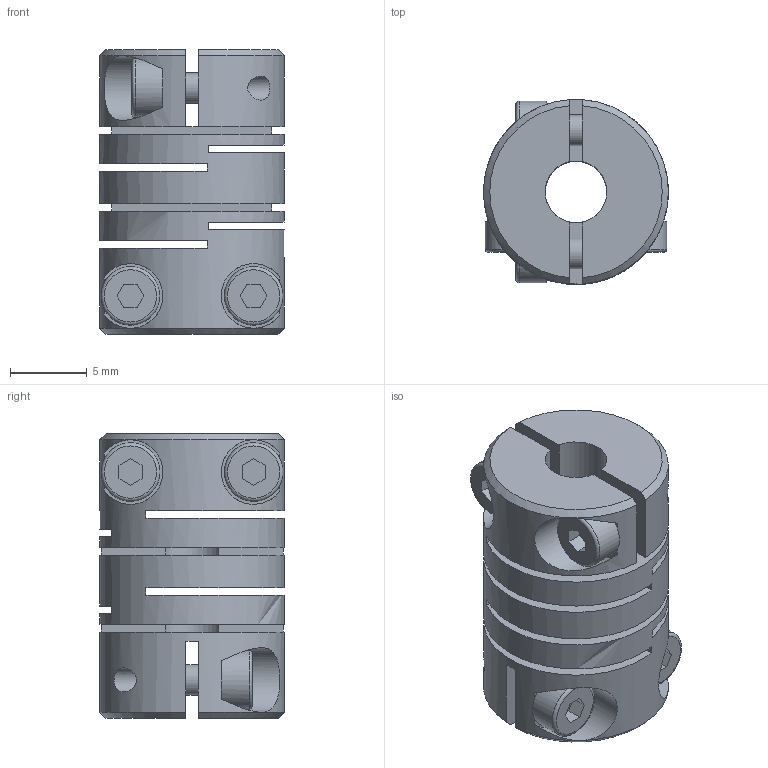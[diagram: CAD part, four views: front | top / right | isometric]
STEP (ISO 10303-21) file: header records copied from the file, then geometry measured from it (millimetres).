
FILE_DESCRIPTION (( 'STEP AP214' ), '1' );
FILE_NAME ('2246-12-B4-4-NI.step', '2022-05-27T09:30:45', ( '' ), ( '' ), 'SwSTEP 2.0', 'SolidWorks 2019', '' );
FILE_SCHEMA (( 'AUTOMOTIVE_DESIGN' ));
Length unit declared in the file: millimetre
Products named in the file (1): 2246-12-B4-4-NI
Bounding box: 12 x 11.99 x 18.5 mm (x, y, z)
Volume: 1544.2 mm3; surface area: 2245.1 mm2
Topology: 1 solids, 1 shells, 119 faces, 325 edges, 214 vertices
Faces by surface type: plane 86, cylinder 25, cone 4, torus 4
Full cylindrical faces by diameter (mm): 1.57 x4, 2 x4, 2.2 x4, 3.8 x4, 4 x2, 12 x1
Entity records: 4327 total; most frequent: CARTESIAN_POINT 904, DIRECTION 574, ORIENTED_EDGE 534, EDGE_CURVE 267, AXIS2_PLACEMENT_3D 207, VERTEX_POINT 185, EDGE_LOOP 174, VECTOR 160
